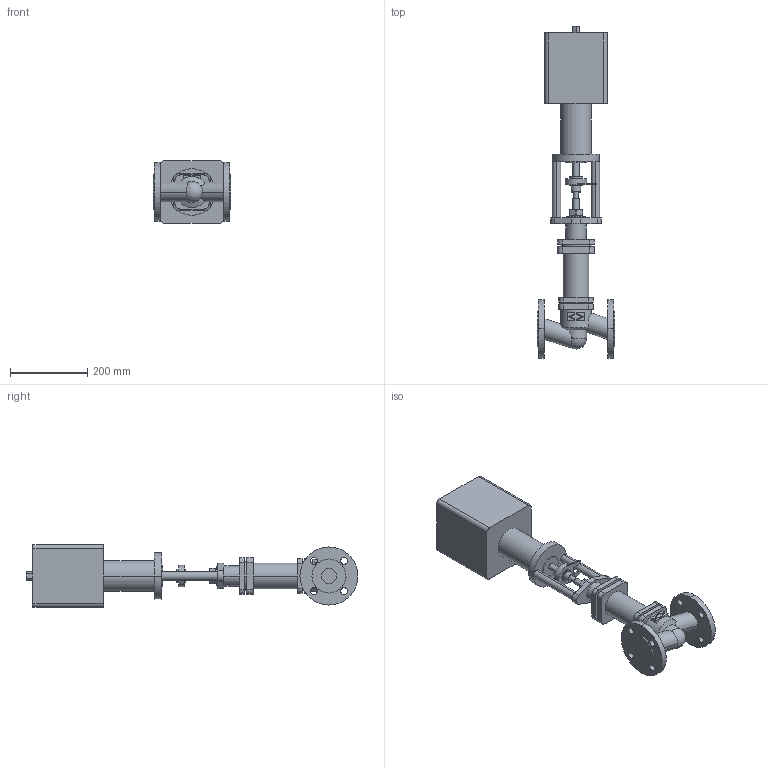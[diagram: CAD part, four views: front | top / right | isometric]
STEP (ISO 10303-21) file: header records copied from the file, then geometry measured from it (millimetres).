
FILE_DESCRIPTION( ( '' ), '1' );
FILE_NAME( 'F:/DE-SHS/TB/OR/04-Sonstiges/daten/files_3d/441-FR2.2/441-PN40-FR2_2/c000004567.stp', '2014-11-06T11:30:39', ( '' ), ( '' ), ' ', ' ', ' ' );
FILE_SCHEMA( ( 'CONFIG_CONTROL_DESIGN' ) );
Length unit declared in the file: millimetre
Products named in the file (2): 1; 2
Bounding box: 200 x 858 x 162 mm (x, y, z)
Volume: 8068776.7 mm3; surface area: 485336.3 mm2
Topology: 2 solids, 2 shells, 202 faces, 497 edges, 329 vertices
Faces by surface type: cylinder 102, plane 97, cone 2, sphere 1
Entity records: 6607 total; most frequent: CARTESIAN_POINT 1512, DIRECTION 1105, ORIENTED_EDGE 990, EDGE_CURVE 495, AXIS2_PLACEMENT_3D 420, VERTEX_POINT 329, LINE 265, VECTOR 265
